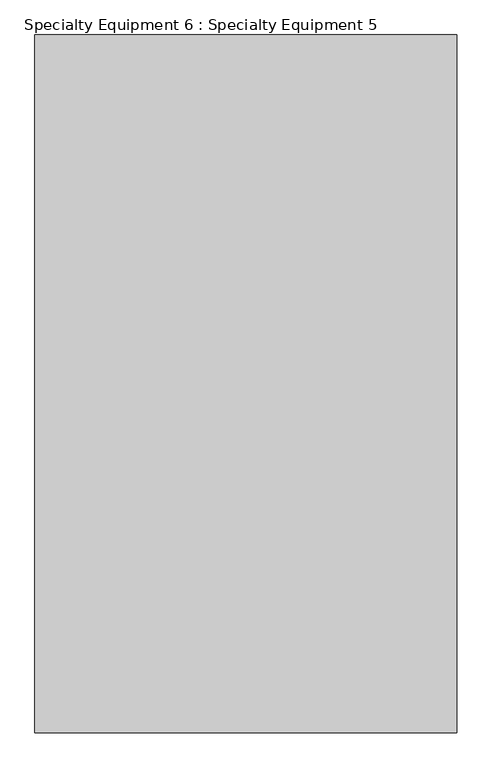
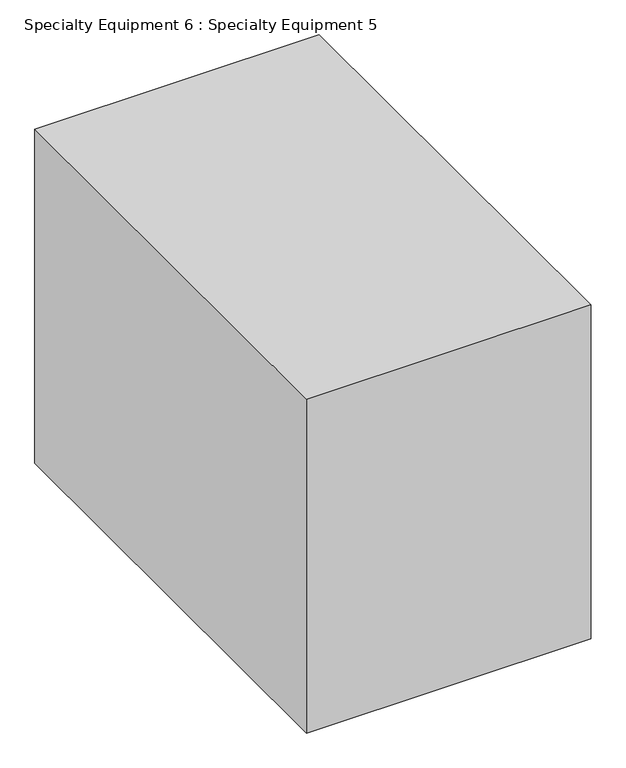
"""IFC4 building model written with IfcOpenShell, lengths in millimetres: proxy geometry, Specialty Equipment 6 : Specialty Equipment 5."""

from ifc_helpers import new_model, si_unit, frame, origin, place, context, project, spatial, polyline, outline, extrude, source, transform, mapped, element, save


def specialty_equipment_6_specialty_equipment_5_ca1720f7(model_context):
    return source(origin(), model_context, "Body", "SweptSolid", [
        extrude(outline(polyline([(1905.0, 7200.9), (1905.0, 5981.7), (1168.4, 5981.7), (1168.4, 7200.9), (1905.0, 7200.9)])), frame((0.0, 0.0, 3348.0), z_axis=(0.0, 0.0, 1.0), x_axis=(1.0, 0.0, 0.0)), (0.0, 0.0, 1.0), 914.4),
    ])


if __name__ == "__main__":
    model = new_model("IFC4")
    model_context = context("Model", 3, world=origin())
    ifc_project = project(units=[si_unit("LENGTHUNIT", "METRE", prefix="MILLI")], contexts=[model_context])
    site = spatial("IfcSite", under=ifc_project)
    building = spatial("IfcBuilding", under=site)
    placement = place(None, origin())
    specialty_equipment_6_specialty_equipment_5_shape = specialty_equipment_6_specialty_equipment_5_ca1720f7(model_context)
    element("IfcBuildingElementProxy", 1, Name="Specialty Equipment 6 : Specialty Equipment 5", ObjectType="Specialty Equipment 6 : Specialty Equipment 5", at=placement, inside=building, context=model_context, shape_type="MappedRepresentation", body=[
        mapped(specialty_equipment_6_specialty_equipment_5_shape, transform((0.0, 0.0, 0.0), x_axis=(1.0, 0.0, 0.0), y_axis=(0.0, 1.0, 0.0), z_axis=(0.0, 0.0, 1.0))),
    ])
    save(model, "model.ifc")
